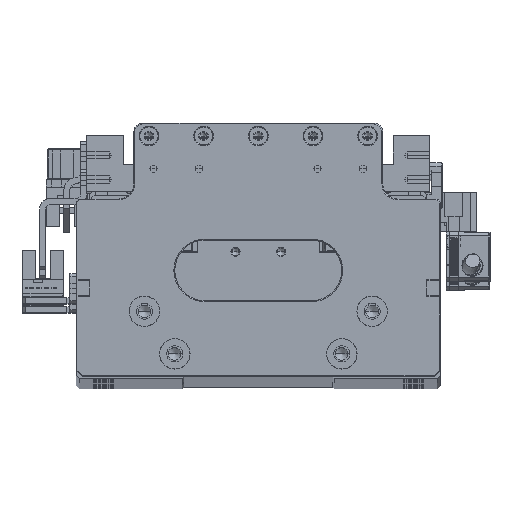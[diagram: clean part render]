
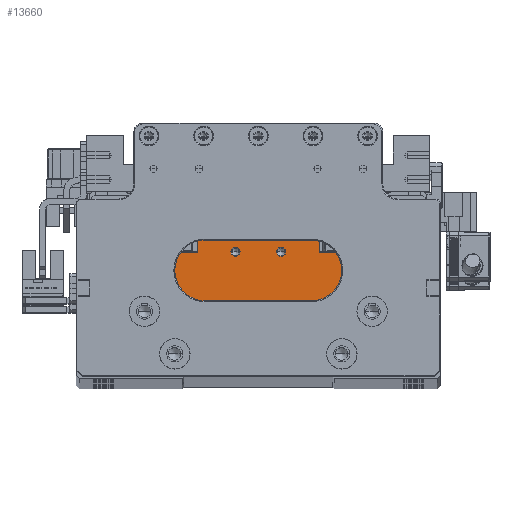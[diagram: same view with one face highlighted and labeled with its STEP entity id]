
A CAD part, top view. The second image highlights one B-rep face of the part: STEP entity #13660.
In plain terms, the highlighted planar face has unit normal (0, 0, 1).
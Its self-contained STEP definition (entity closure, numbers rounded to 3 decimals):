
#3869 = CARTESIAN_POINT ( 'NONE',  ( 28.206, -1.296, 411.036 ) ) ;
#4674 = CARTESIAN_POINT ( 'NONE',  ( 28.206, 6.204, 411.036 ) ) ;
#5776 = LINE ( 'NONE', #26737, #70934 ) ;
#6335 = EDGE_CURVE ( 'NONE', #106731, #62747, #77044, .T. ) ;
#7124 = AXIS2_PLACEMENT_3D ( 'NONE', #24895, #101627, #35959 ) ;
#9787 = CARTESIAN_POINT ( 'NONE',  ( -21.694, 6.204, 411.036 ) ) ;
#12454 = ORIENTED_EDGE ( 'NONE', *, *, #78346, .F. ) ;
#13660 = ADVANCED_FACE ( 'NONE', ( #71261, #38666, #96985 ), #85657, .F. ) ;
#15652 = DIRECTION ( 'NONE',  ( 0., 0., 1. ) ) ;
#15742 = DIRECTION ( 'NONE',  ( 1., 0., 0. ) ) ;
#18796 = DIRECTION ( 'NONE',  ( 0., 0., 1. ) ) ;
#20692 = EDGE_CURVE ( 'NONE', #109636, #123019, #53417, .T. ) ;
#20990 = DIRECTION ( 'NONE',  ( 0., 0., -1. ) ) ;
#22803 = EDGE_CURVE ( 'NONE', #129219, #133621, #138929, .T. ) ;
#22862 = CARTESIAN_POINT ( 'NONE',  ( -9.194, 6.204, 411.036 ) ) ;
#23062 = CARTESIAN_POINT ( 'NONE',  ( 5.806, 6.304, 411.036 ) ) ;
#23380 = EDGE_CURVE ( 'NONE', #30696, #60029, #142180, .T. ) ;
#24658 = CARTESIAN_POINT ( 'NONE',  ( -9.194, 6.204, 411.036 ) ) ;
#24745 = ORIENTED_EDGE ( 'NONE', *, *, #60288, .F. ) ;
#24895 = CARTESIAN_POINT ( 'NONE',  ( -9.194, 6.304, 411.036 ) ) ;
#26737 = CARTESIAN_POINT ( 'NONE',  ( -21.694, -1.296, 411.036 ) ) ;
#30044 = EDGE_LOOP ( 'NONE', ( #24745, #116847 ) ) ;
#30696 = VERTEX_POINT ( 'NONE', #94013 ) ;
#30827 = ORIENTED_EDGE ( 'NONE', *, *, #77851, .F. ) ;
#33095 = CARTESIAN_POINT ( 'NONE',  ( -31.594, -12.996, 411.036 ) ) ;
#33103 = VECTOR ( 'NONE', #33896, 1000. ) ;
#33896 = DIRECTION ( 'NONE',  ( 1., 0., 0. ) ) ;
#34124 = DIRECTION ( 'NONE',  ( 1., 0., 0. ) ) ;
#34976 = VERTEX_POINT ( 'NONE', #138677 ) ;
#35959 = DIRECTION ( 'NONE',  ( 1., 0., 0. ) ) ;
#37094 = VERTEX_POINT ( 'NONE', #128489 ) ;
#38666 = FACE_BOUND ( 'NONE', #30044, .T. ) ;
#39712 = VECTOR ( 'NONE', #76580, 1000. ) ;
#46447 = VERTEX_POINT ( 'NONE', #9787 ) ;
#46936 = CARTESIAN_POINT ( 'NONE',  ( -31.594, -1.296, 411.036 ) ) ;
#47740 = CARTESIAN_POINT ( 'NONE',  ( 18.306, 6.204, 411.036 ) ) ;
#50413 = ORIENTED_EDGE ( 'NONE', *, *, #86797, .F. ) ;
#52211 = EDGE_CURVE ( 'NONE', #123019, #129219, #75736, .T. ) ;
#53417 = LINE ( 'NONE', #70356, #133928 ) ;
#57912 = DIRECTION ( 'NONE',  ( 0., 1., 0. ) ) ;
#58479 = DIRECTION ( 'NONE',  ( 0., -1., 0. ) ) ;
#58979 = CARTESIAN_POINT ( 'NONE',  ( 18.306, -1.296, 411.036 ) ) ;
#60029 = VERTEX_POINT ( 'NONE', #99069 ) ;
#60288 = EDGE_CURVE ( 'NONE', #60029, #30696, #65006, .T. ) ;
#62284 = LINE ( 'NONE', #22862, #33103 ) ;
#62714 = EDGE_LOOP ( 'NONE', ( #141674, #30827 ) ) ;
#62747 = VERTEX_POINT ( 'NONE', #79837 ) ;
#65006 = CIRCLE ( 'NONE', #114249, 1.525 ) ;
#65593 = CARTESIAN_POINT ( 'NONE',  ( -9.194, -12.996, 411.036 ) ) ;
#65889 = VERTEX_POINT ( 'NONE', #67147 ) ;
#67147 = CARTESIAN_POINT ( 'NONE',  ( -7.669, 6.304, 411.036 ) ) ;
#70356 = CARTESIAN_POINT ( 'NONE',  ( -9.194, 10.204, 411.036 ) ) ;
#70839 = CARTESIAN_POINT ( 'NONE',  ( -21.694, 10.204, 411.036 ) ) ;
#70934 = VECTOR ( 'NONE', #105401, 1000. ) ;
#71261 = FACE_OUTER_BOUND ( 'NONE', #109364, .T. ) ;
#73129 = LINE ( 'NONE', #3869, #98815 ) ;
#75633 = CARTESIAN_POINT ( 'NONE',  ( -9.194, -1.296, 411.036 ) ) ;
#75736 = LINE ( 'NONE', #58979, #130567 ) ;
#76580 = DIRECTION ( 'NONE',  ( 1., 0., 0. ) ) ;
#76715 = ORIENTED_EDGE ( 'NONE', *, *, #6335, .F. ) ;
#77044 = LINE ( 'NONE', #46936, #131906 ) ;
#77851 = EDGE_CURVE ( 'NONE', #34976, #65889, #136117, .T. ) ;
#78346 = EDGE_CURVE ( 'NONE', #62747, #46447, #62284, .T. ) ;
#79454 = EDGE_CURVE ( 'NONE', #106731, #37094, #134030, .T. ) ;
#79837 = CARTESIAN_POINT ( 'NONE',  ( -31.594, 6.204, 411.036 ) ) ;
#80544 = EDGE_CURVE ( 'NONE', #65889, #34976, #108815, .T. ) ;
#80809 = AXIS2_PLACEMENT_3D ( 'NONE', #75633, #20990, #97675 ) ;
#81247 = CARTESIAN_POINT ( 'NONE',  ( 5.806, 6.304, 411.036 ) ) ;
#82544 = CARTESIAN_POINT ( 'NONE',  ( 18.306, 10.204, 411.036 ) ) ;
#84452 = CARTESIAN_POINT ( 'NONE',  ( -9.194, 6.304, 411.036 ) ) ;
#85657 = PLANE ( 'NONE',  #80809 ) ;
#86797 = EDGE_CURVE ( 'NONE', #133621, #37094, #73129, .T. ) ;
#88660 = EDGE_CURVE ( 'NONE', #46447, #109636, #5776, .T. ) ;
#92261 = DIRECTION ( 'NONE',  ( 1., 0., 0. ) ) ;
#94013 = CARTESIAN_POINT ( 'NONE',  ( 4.281, 6.304, 411.036 ) ) ;
#95483 = DIRECTION ( 'NONE',  ( 1., 0., 0. ) ) ;
#96985 = FACE_BOUND ( 'NONE', #62714, .T. ) ;
#97675 = DIRECTION ( 'NONE',  ( -1., 0., 0. ) ) ;
#98001 = ORIENTED_EDGE ( 'NONE', *, *, #22803, .F. ) ;
#98815 = VECTOR ( 'NONE', #58479, 1000. ) ;
#99069 = CARTESIAN_POINT ( 'NONE',  ( 7.331, 6.304, 411.036 ) ) ;
#99790 = DIRECTION ( 'NONE',  ( 0., 0., 1. ) ) ;
#100147 = ORIENTED_EDGE ( 'NONE', *, *, #20692, .F. ) ;
#101627 = DIRECTION ( 'NONE',  ( 0., 0., 1. ) ) ;
#105401 = DIRECTION ( 'NONE',  ( 0., 1., 0. ) ) ;
#106731 = VERTEX_POINT ( 'NONE', #33095 ) ;
#108489 = ORIENTED_EDGE ( 'NONE', *, *, #88660, .F. ) ;
#108815 = CIRCLE ( 'NONE', #124753, 1.525 ) ;
#109364 = EDGE_LOOP ( 'NONE', ( #12454, #76715, #112926, #50413, #98001, #111691, #100147, #108489 ) ) ;
#109636 = VERTEX_POINT ( 'NONE', #70839 ) ;
#111691 = ORIENTED_EDGE ( 'NONE', *, *, #52211, .F. ) ;
#112926 = ORIENTED_EDGE ( 'NONE', *, *, #79454, .T. ) ;
#113528 = DIRECTION ( 'NONE',  ( 0., -1., 0. ) ) ;
#114249 = AXIS2_PLACEMENT_3D ( 'NONE', #81247, #15652, #92261 ) ;
#116847 = ORIENTED_EDGE ( 'NONE', *, *, #23380, .F. ) ;
#123019 = VERTEX_POINT ( 'NONE', #82544 ) ;
#124753 = AXIS2_PLACEMENT_3D ( 'NONE', #84452, #18796, #95483 ) ;
#125732 = AXIS2_PLACEMENT_3D ( 'NONE', #23062, #99790, #34124 ) ;
#128489 = CARTESIAN_POINT ( 'NONE',  ( 28.206, -12.996, 411.036 ) ) ;
#129219 = VERTEX_POINT ( 'NONE', #47740 ) ;
#130567 = VECTOR ( 'NONE', #113528, 1000. ) ;
#131906 = VECTOR ( 'NONE', #57912, 1000. ) ;
#133621 = VERTEX_POINT ( 'NONE', #4674 ) ;
#133928 = VECTOR ( 'NONE', #15742, 1000. ) ;
#134030 = LINE ( 'NONE', #65593, #39712 ) ;
#134429 = DIRECTION ( 'NONE',  ( 1., 0., 0. ) ) ;
#135463 = VECTOR ( 'NONE', #134429, 1000. ) ;
#136117 = CIRCLE ( 'NONE', #7124, 1.525 ) ;
#138677 = CARTESIAN_POINT ( 'NONE',  ( -10.719, 6.304, 411.036 ) ) ;
#138929 = LINE ( 'NONE', #24658, #135463 ) ;
#141674 = ORIENTED_EDGE ( 'NONE', *, *, #80544, .F. ) ;
#142180 = CIRCLE ( 'NONE', #125732, 1.525 ) ;
